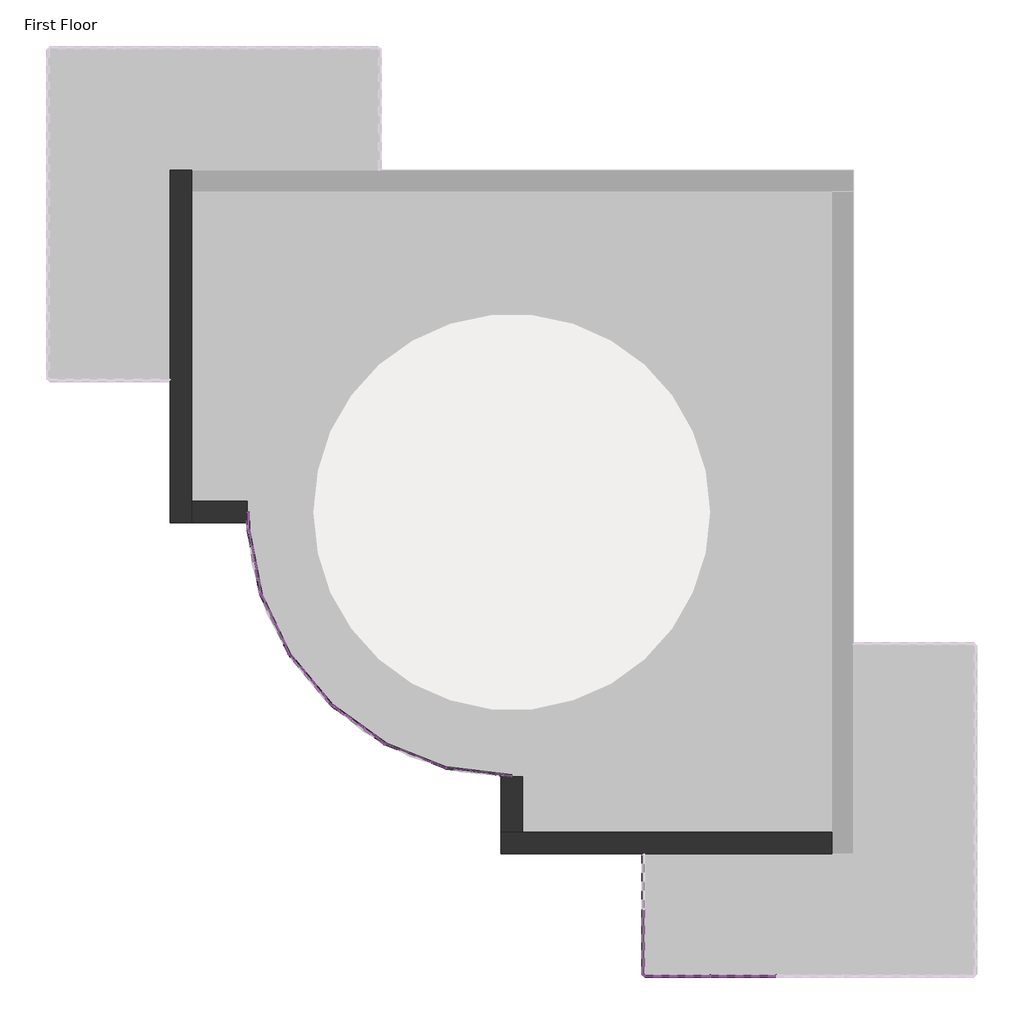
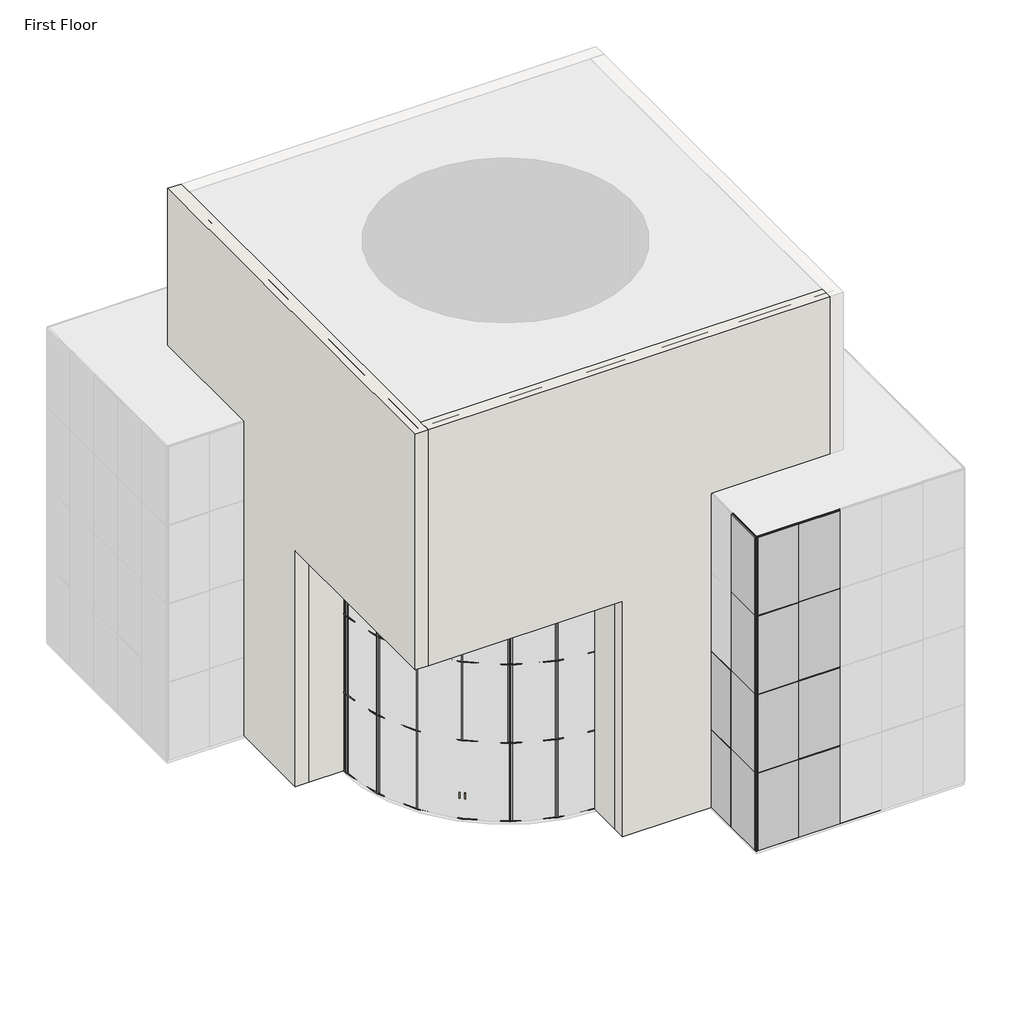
# One storey, part 1 of 4: 73 members, 33 plates, 4 walls, 2 doors.
"""IFC4 building model written with IfcOpenShell, lengths in millimetres."""

from ifc_helpers import new_model, si_unit, origin, origin_with_axes, place, context, project, spatial, polyline, outline, extrude, faceted_brep, transform, mapped, element, save
from components import curtain_wall_sgl_glass_curtain_wall_sgl_glass_fca7f741, curtain_wall_sgl_glass_curtain_wall_sgl_glass_da5bb70a, member_5e617a80, member_74941792, member_cbdb9076, member_7e523723, member_9fd3d903, member_6604d1e0, member_427ea564, member_dc7d8ed0, member_50c0a876, member_f831c101, member_4ce38149, member_fef64646, member_b90b2622, member_80103e86, member_985bfe06, member_dfe62b7a, member_7f371842, system_panel_glazed_9b7d687a, system_panel_glazed_9a901b4a, system_panel_glazed_2d5e1d3d, system_panel_glazed_37964ea6, system_panel_glazed_a669fc9f, system_panel_glazed_51c864c8, system_panel_glazed_64ac1428, system_panel_glazed_4997d7a8, system_panel_glazed_95735f45, system_panel_glazed_2762a518, system_panel_glazed_280dc3c4, system_panel_glazed_176abec3, system_panel_glazed_46fdc408

model = new_model("IFC4")

# Units and contexts
model_context = context("Model", 3, world=origin())
ifc_project = project(units=[si_unit("LENGTHUNIT", "METRE", prefix="MILLI")], contexts=[model_context])

# Site, building, storey
site = spatial("IfcSite", under=ifc_project)
building = spatial("IfcBuilding", under=site)
storey = spatial("IfcBuildingStorey", under=building, Name="First Floor", Elevation=0.0)

# Doors
placement = place(None, origin())
curtain_wall_sgl_glass_curtain_wall_sgl_glass_shape = curtain_wall_sgl_glass_curtain_wall_sgl_glass_fca7f741(model_context)
element("IfcDoor", 1, ObjectType="Curtain Wall Sgl Glass : Curtain Wall Sgl Glass", at=placement, inside=storey, context=model_context, shape_type="MappedRepresentation", body=[
    mapped(curtain_wall_sgl_glass_curtain_wall_sgl_glass_shape, transform((-6023.0622127, -5581.3120786, 25.4), x_axis=(0.8100029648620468, -0.5864257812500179, 0.0), y_axis=(0.5864257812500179, 0.8100029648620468, 0.0), z_axis=(0.0, 0.0, 1.0))),
])
curtain_wall_sgl_glass_curtain_wall_sgl_glass_2_shape = curtain_wall_sgl_glass_curtain_wall_sgl_glass_da5bb70a(model_context)
element("IfcDoor", 2, ObjectType="Curtain Wall Sgl Glass : Curtain Wall Sgl Glass", at=placement, inside=storey, context=model_context, shape_type="MappedRepresentation", body=[
    mapped(curtain_wall_sgl_glass_curtain_wall_sgl_glass_2_shape, transform((-7118.1779734, -4557.0751782, 25.4), x_axis=(-0.6392337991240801, 0.7690124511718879, 0.0), y_axis=(-0.7690124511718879, -0.6392337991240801, 0.0), z_axis=(0.0, 0.0, 1.0))),
])

# Members
member_shape = member_5e617a80(model_context)
element("IfcMember", 3, ObjectType="Rectangular Mullion : 1\" Square", at=placement, inside=storey, context=model_context, shape_type="MappedRepresentation", body=[
    mapped(member_shape, transform((2088.1943843, -11353.9860776, 3048.0), x_axis=(0.0, 0.0, 1.0), y_axis=(0.0, -1.0, 0.0), z_axis=(1.0, 0.0, 0.0))),
])
element("IfcMember", 4, ObjectType="Rectangular Mullion : 1\" Square", at=placement, inside=storey, context=model_context, shape_type="MappedRepresentation", body=[
    mapped(member_shape, transform((2088.1943843, -11353.9860776, 6096.0), x_axis=(0.0, 0.0, 1.0), y_axis=(0.0, -1.0, 0.0), z_axis=(1.0, 0.0, 0.0))),
])
element("IfcMember", 5, ObjectType="Rectangular Mullion : 1\" Square", at=placement, inside=storey, context=model_context, shape_type="MappedRepresentation", body=[
    mapped(member_shape, transform((2088.1943843, -11353.9860776, 9144.0), x_axis=(0.0, 0.0, 1.0), y_axis=(0.0, -1.0, 0.0), z_axis=(1.0, 0.0, 0.0))),
])
member_2_shape = member_74941792(model_context)
element("IfcMember", 6, ObjectType="Rectangular Mullion : 1\" Square", at=placement, inside=storey, context=model_context, shape_type="MappedRepresentation", body=[
    mapped(member_2_shape, transform((2088.1943843, -11353.9860776, 12192.0), x_axis=(0.0, 0.0, 1.0), y_axis=(0.0, -1.0, 0.0), z_axis=(1.0, 0.0, 0.0))),
])
member_3_shape = member_cbdb9076(model_context)
element("IfcMember", 7, ObjectType="Rectangular Mullion : 1\" Square", at=placement, inside=storey, context=model_context, shape_type="MappedRepresentation", body=[
    mapped(member_3_shape, transform((576.8943843, -11350.8110776, 3048.0), x_axis=(0.0, -1.0, 0.0), y_axis=(-1.0, 0.0, 0.0), z_axis=(0.0, 0.0, -1.0))),
])
element("IfcMember", 8, ObjectType="Rectangular Mullion : 1\" Square", at=placement, inside=storey, context=model_context, shape_type="MappedRepresentation", body=[
    mapped(member_3_shape, transform((576.8943843, -11350.8110776, 6096.0), x_axis=(0.0, -1.0, 0.0), y_axis=(-1.0, 0.0, 0.0), z_axis=(0.0, 0.0, -1.0))),
])
element("IfcMember", 9, ObjectType="Rectangular Mullion : 1\" Square", at=placement, inside=storey, context=model_context, shape_type="MappedRepresentation", body=[
    mapped(member_3_shape, transform((2100.8943843, -11353.9860776, 3048.0), x_axis=(1.0, 0.0, 0.0), y_axis=(0.0, -1.0, 0.0), z_axis=(0.0, 0.0, -1.0))),
])
element("IfcMember", 10, ObjectType="Rectangular Mullion : 1\" Square", at=placement, inside=storey, context=model_context, shape_type="MappedRepresentation", body=[
    mapped(member_3_shape, transform((2100.8943843, -11353.9860776, 6096.0), x_axis=(1.0, 0.0, 0.0), y_axis=(0.0, -1.0, 0.0), z_axis=(0.0, 0.0, -1.0))),
])
element("IfcMember", 11, ObjectType="Rectangular Mullion : 1\" Square", at=placement, inside=storey, context=model_context, shape_type="MappedRepresentation", body=[
    mapped(member_3_shape, transform((3624.8943843, -11353.9860776, 3048.0), x_axis=(1.0, 0.0, 0.0), y_axis=(0.0, -1.0, 0.0), z_axis=(0.0, 0.0, -1.0))),
])
element("IfcMember", 12, ObjectType="Rectangular Mullion : 1\" Square", at=placement, inside=storey, context=model_context, shape_type="MappedRepresentation", body=[
    mapped(member_3_shape, transform((3624.8943843, -11353.9860776, 6096.0), x_axis=(1.0, 0.0, 0.0), y_axis=(0.0, -1.0, 0.0), z_axis=(0.0, 0.0, -1.0))),
])
element("IfcMember", 13, ObjectType="Rectangular Mullion : 1\" Square", at=placement, inside=storey, context=model_context, shape_type="MappedRepresentation", body=[
    mapped(member_3_shape, transform((-8553.4843812, -1093.2753523, 3048.0), x_axis=(-0.0668125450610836, 0.997765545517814, 0.0), y_axis=(0.9977655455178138, 0.06681254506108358, 0.0), z_axis=(0.0, 0.0, -1.0))),
])
element("IfcMember", 14, ObjectType="Rectangular Mullion : 1\" Square", at=placement, inside=storey, context=model_context, shape_type="MappedRepresentation", body=[
    mapped(member_3_shape, transform((-8262.3863448, -2589.2158368, 3048.0), x_axis=(-0.3122096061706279, 0.9500132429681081, 0.0), y_axis=(0.9500132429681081, 0.3122096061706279, 0.0), z_axis=(0.0, 0.0, -1.0))),
])
element("IfcMember", 15, ObjectType="Rectangular Mullion : 1\" Square", at=placement, inside=storey, context=model_context, shape_type="MappedRepresentation", body=[
    mapped(member_3_shape, transform((-7609.3332629, -3966.2044614, 3048.0), x_axis=(-0.5380935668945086, 0.8428851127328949, 0.0), y_axis=(0.8428851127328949, 0.5380935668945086, 0.0), z_axis=(0.0, 0.0, -1.0))),
])
element("IfcMember", 16, ObjectType="Rectangular Mullion : 1\" Square", at=placement, inside=storey, context=model_context, shape_type="MappedRepresentation", body=[
    mapped(member_3_shape, transform((-5400.6964346, -6031.8923276, 3048.0), x_axis=(-0.8769531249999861, 0.48057592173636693, 0.0), y_axis=(0.48057592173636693, 0.8769531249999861, 0.0), z_axis=(0.0, 0.0, -1.0))),
])
element("IfcMember", 17, ObjectType="Rectangular Mullion : 1\" Square", at=placement, inside=storey, context=model_context, shape_type="MappedRepresentation", body=[
    mapped(member_3_shape, transform((-3983.15249, -6591.4860776, 3048.0), x_axis=(-0.9687499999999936, 0.2480391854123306, 0.0), y_axis=(0.2480391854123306, 0.9687499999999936, 0.0), z_axis=(0.0, 0.0, -1.0))),
])
element("IfcMember", 18, ObjectType="Rectangular Mullion : 1\" Square", at=placement, inside=storey, context=model_context, shape_type="MappedRepresentation", body=[
    mapped(member_3_shape, transform((576.8943843, -11350.8110776, 9144.0), x_axis=(0.0, -1.0, 0.0), y_axis=(-1.0, 0.0, 0.0), z_axis=(0.0, 0.0, -1.0))),
])
element("IfcMember", 19, ObjectType="Rectangular Mullion : 1\" Square", at=placement, inside=storey, context=model_context, shape_type="MappedRepresentation", body=[
    mapped(member_3_shape, transform((2100.8943843, -11353.9860776, 9144.0), x_axis=(1.0, 0.0, 0.0), y_axis=(0.0, -1.0, 0.0), z_axis=(0.0, 0.0, -1.0))),
])
element("IfcMember", 20, ObjectType="Rectangular Mullion : 1\" Square", at=placement, inside=storey, context=model_context, shape_type="MappedRepresentation", body=[
    mapped(member_3_shape, transform((3624.8943843, -11353.9860776, 9144.0), x_axis=(1.0, 0.0, 0.0), y_axis=(0.0, -1.0, 0.0), z_axis=(0.0, 0.0, -1.0))),
])
element("IfcMember", 21, ObjectType="Rectangular Mullion : 1\" Square", at=placement, inside=storey, context=model_context, shape_type="MappedRepresentation", body=[
    mapped(member_3_shape, transform((576.8943843, -11350.8110776, 0.0), x_axis=(0.0, -1.0, 0.0), y_axis=(-1.0, 0.0, 0.0), z_axis=(0.0, 0.0, -1.0))),
])
element("IfcMember", 22, ObjectType="Rectangular Mullion : 1\" Square", at=placement, inside=storey, context=model_context, shape_type="MappedRepresentation", body=[
    mapped(member_3_shape, transform((2100.8943843, -11353.9860776, 0.0), x_axis=(1.0, 0.0, 0.0), y_axis=(0.0, -1.0, 0.0), z_axis=(0.0, 0.0, -1.0))),
])
element("IfcMember", 23, ObjectType="Rectangular Mullion : 1\" Square", at=placement, inside=storey, context=model_context, shape_type="MappedRepresentation", body=[
    mapped(member_3_shape, transform((3624.8943843, -11353.9860776, 0.0), x_axis=(1.0, 0.0, 0.0), y_axis=(0.0, -1.0, 0.0), z_axis=(0.0, 0.0, -1.0))),
])
element("IfcMember", 24, ObjectType="Rectangular Mullion : 1\" Square", at=placement, inside=storey, context=model_context, shape_type="MappedRepresentation", body=[
    mapped(member_3_shape, transform((-8553.4843812, -1093.2753523, 0.0), x_axis=(-0.06681254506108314, 0.9977655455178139, 0.0), y_axis=(0.9977655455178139, 0.06681254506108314, 0.0), z_axis=(0.0, 0.0, -1.0))),
])
element("IfcMember", 25, ObjectType="Rectangular Mullion : 1\" Square", at=placement, inside=storey, context=model_context, shape_type="MappedRepresentation", body=[
    mapped(member_3_shape, transform((-8262.3863448, -2589.2158368, 0.0), x_axis=(-0.3122096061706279, 0.9500132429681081, 0.0), y_axis=(0.9500132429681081, 0.3122096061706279, 0.0), z_axis=(0.0, 0.0, -1.0))),
])
element("IfcMember", 26, ObjectType="Rectangular Mullion : 1\" Square", at=placement, inside=storey, context=model_context, shape_type="MappedRepresentation", body=[
    mapped(member_3_shape, transform((-7609.3332629, -3966.2044614, 0.0), x_axis=(-0.5380935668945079, 0.8428851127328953, 0.0), y_axis=(0.8428851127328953, 0.5380935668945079, 0.0), z_axis=(0.0, 0.0, -1.0))),
])
element("IfcMember", 27, ObjectType="Rectangular Mullion : 1\" Square", at=placement, inside=storey, context=model_context, shape_type="MappedRepresentation", body=[
    mapped(member_3_shape, transform((-5400.6964346, -6031.8923276, 0.0), x_axis=(-0.8769531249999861, 0.48057592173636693, 0.0), y_axis=(0.48057592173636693, 0.8769531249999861, 0.0), z_axis=(0.0, 0.0, -1.0))),
])
element("IfcMember", 28, ObjectType="Rectangular Mullion : 1\" Square", at=placement, inside=storey, context=model_context, shape_type="MappedRepresentation", body=[
    mapped(member_3_shape, transform((-3983.15249, -6591.4860776, 0.0), x_axis=(-0.9687499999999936, 0.2480391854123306, 0.0), y_axis=(0.2480391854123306, 0.9687499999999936, 0.0), z_axis=(0.0, 0.0, -1.0))),
])
element("IfcMember", 29, ObjectType="Rectangular Mullion : 1\" Square", at=placement, inside=storey, context=model_context, shape_type="MappedRepresentation", body=[
    mapped(member_2_shape, transform((602.2943843, -11353.9860776, 0.0), x_axis=(0.0, 0.0, -1.0), y_axis=(0.0, -1.0, 0.0), z_axis=(-1.0, 0.0, 0.0))),
])
member_4_shape = member_7e523723(model_context)
element("IfcMember", 30, ObjectType="Rectangular Mullion : 1\" Square", at=placement, inside=storey, context=model_context, shape_type="MappedRepresentation", body=[
    mapped(member_4_shape, transform((576.8943843, -11353.9860776, 12192.0), x_axis=(-1.0, 0.0, 0.0), y_axis=(0.0, -1.0, 0.0), z_axis=(0.0, 0.0, 1.0))),
])
element("IfcMember", 31, ObjectType="Rectangular Mullion : 1\" Square", at=placement, inside=storey, context=model_context, shape_type="MappedRepresentation", body=[
    mapped(member_4_shape, transform((576.8943843, -11353.9860776, 3048.0), x_axis=(-1.0, 0.0, 0.0), y_axis=(0.0, -1.0, 0.0), z_axis=(0.0, 0.0, 1.0))),
])
element("IfcMember", 32, ObjectType="Rectangular Mullion : 1\" Square", at=placement, inside=storey, context=model_context, shape_type="MappedRepresentation", body=[
    mapped(member_4_shape, transform((576.8943843, -11353.9860776, 6096.0), x_axis=(-1.0, 0.0, 0.0), y_axis=(0.0, -1.0, 0.0), z_axis=(0.0, 0.0, 1.0))),
])
element("IfcMember", 33, ObjectType="Rectangular Mullion : 1\" Square", at=placement, inside=storey, context=model_context, shape_type="MappedRepresentation", body=[
    mapped(member_4_shape, transform((576.8943843, -11353.9860776, 9144.0), x_axis=(-1.0, 0.0, 0.0), y_axis=(0.0, -1.0, 0.0), z_axis=(0.0, 0.0, 1.0))),
])
member_5_shape = member_9fd3d903(model_context)
element("IfcMember", 34, ObjectType="Rectangular Mullion : 1\" Square", at=placement, inside=storey, context=model_context, shape_type="MappedRepresentation", body=[
    mapped(member_5_shape, transform((576.8943843, -11338.1110776, 3048.0), x_axis=(0.0, 0.0, 1.0), y_axis=(-1.0, 0.0, 0.0), z_axis=(0.0, -1.0, 0.0))),
])
element("IfcMember", 35, ObjectType="Rectangular Mullion : 1\" Square", at=placement, inside=storey, context=model_context, shape_type="MappedRepresentation", body=[
    mapped(member_5_shape, transform((576.8943843, -11338.1110776, 6096.0), x_axis=(0.0, 0.0, 1.0), y_axis=(-1.0, 0.0, 0.0), z_axis=(0.0, -1.0, 0.0))),
])
element("IfcMember", 36, ObjectType="Rectangular Mullion : 1\" Square", at=placement, inside=storey, context=model_context, shape_type="MappedRepresentation", body=[
    mapped(member_5_shape, transform((576.8943843, -11338.1110776, 9144.0), x_axis=(0.0, 0.0, 1.0), y_axis=(-1.0, 0.0, 0.0), z_axis=(0.0, -1.0, 0.0))),
])
element("IfcMember", 37, ObjectType="Rectangular Mullion : 1\" Square", at=placement, inside=storey, context=model_context, shape_type="MappedRepresentation", body=[
    mapped(member_5_shape, transform((3612.1943843, -11353.9860776, 3048.0), x_axis=(0.0, 0.0, 1.0), y_axis=(0.0, -1.0, 0.0), z_axis=(1.0, 0.0, 0.0))),
])
element("IfcMember", 38, ObjectType="Rectangular Mullion : 1\" Square", at=placement, inside=storey, context=model_context, shape_type="MappedRepresentation", body=[
    mapped(member_5_shape, transform((3612.1943843, -11353.9860776, 6096.0), x_axis=(0.0, 0.0, 1.0), y_axis=(0.0, -1.0, 0.0), z_axis=(1.0, 0.0, 0.0))),
])
element("IfcMember", 39, ObjectType="Rectangular Mullion : 1\" Square", at=placement, inside=storey, context=model_context, shape_type="MappedRepresentation", body=[
    mapped(member_5_shape, transform((3612.1943843, -11353.9860776, 9144.0), x_axis=(0.0, 0.0, 1.0), y_axis=(0.0, -1.0, 0.0), z_axis=(1.0, 0.0, 0.0))),
])
member_6_shape = member_6604d1e0(model_context)
element("IfcMember", 40, ObjectType="Rectangular Mullion : 1\" Square", at=placement, inside=storey, context=model_context, shape_type="MappedRepresentation", body=[
    mapped(member_6_shape, transform((576.8943843, -11338.1110776, 12192.0), x_axis=(0.0, 0.0, 1.0), y_axis=(-1.0, 0.0, 0.0), z_axis=(0.0, -1.0, 0.0))),
])
element("IfcMember", 41, ObjectType="Rectangular Mullion : 1\" Square", at=placement, inside=storey, context=model_context, shape_type="MappedRepresentation", body=[
    mapped(member_6_shape, transform((3612.1943843, -11353.9860776, 12192.0), x_axis=(0.0, 0.0, 1.0), y_axis=(0.0, -1.0, 0.0), z_axis=(1.0, 0.0, 0.0))),
])
element("IfcMember", 42, ObjectType="Rectangular Mullion : 1\" Square", at=placement, inside=storey, context=model_context, shape_type="MappedRepresentation", body=[
    mapped(member_6_shape, transform((2113.5943843, -11353.9860776, 0.0), x_axis=(0.0, 0.0, -1.0), y_axis=(0.0, -1.0, 0.0), z_axis=(-1.0, 0.0, 0.0))),
])
element("IfcMember", 43, ObjectType="Rectangular Mullion : 1\" Square", at=placement, inside=storey, context=model_context, shape_type="MappedRepresentation", body=[
    mapped(member_6_shape, transform((3637.5943843, -11353.9860776, 0.0), x_axis=(0.0, 0.0, -1.0), y_axis=(0.0, -1.0, 0.0), z_axis=(-1.0, 0.0, 0.0))),
])
element("IfcMember", 44, ObjectType="Rectangular Mullion : 1\" Square", at=placement, inside=storey, context=model_context, shape_type="MappedRepresentation", body=[
    mapped(member_4_shape, transform((576.8943843, -11353.9860776, 3048.0), x_axis=(0.0, -1.0, 0.0), y_axis=(-1.0, 0.0, 0.0), z_axis=(0.0, 0.0, -1.0))),
])
element("IfcMember", 45, ObjectType="Rectangular Mullion : 1\" Square", at=placement, inside=storey, context=model_context, shape_type="MappedRepresentation", body=[
    mapped(member_4_shape, transform((576.8943843, -11353.9860776, 6096.0), x_axis=(0.0, -1.0, 0.0), y_axis=(-1.0, 0.0, 0.0), z_axis=(0.0, 0.0, -1.0))),
])
element("IfcMember", 46, ObjectType="Rectangular Mullion : 1\" Square", at=placement, inside=storey, context=model_context, shape_type="MappedRepresentation", body=[
    mapped(member_4_shape, transform((576.8943843, -11353.9860776, 9144.0), x_axis=(0.0, -1.0, 0.0), y_axis=(-1.0, 0.0, 0.0), z_axis=(0.0, 0.0, -1.0))),
])
element("IfcMember", 47, ObjectType="Rectangular Mullion : 1\" Square", at=placement, inside=storey, context=model_context, shape_type="MappedRepresentation", body=[
    mapped(member_4_shape, transform((576.8943843, -11353.9860776, 0.0), x_axis=(0.0, -1.0, 0.0), y_axis=(-1.0, 0.0, 0.0), z_axis=(0.0, 0.0, -1.0))),
])
member_7_shape = member_427ea564(model_context)
element("IfcMember", 48, ObjectType="Rectangular Mullion : 1\" Square", at=placement, inside=storey, context=model_context, shape_type="MappedRepresentation", body=[
    mapped(member_7_shape, transform((-7614.7753719, -3954.7295562, 0.0), x_axis=(0.0, 0.0, -1.0), y_axis=(0.9035358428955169, 0.4285125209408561, 0.0), z_axis=(0.42851252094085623, -0.9035358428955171, 0.0))),
])
element("IfcMember", 49, ObjectType="Rectangular Mullion : 1\" Square", at=placement, inside=storey, context=model_context, shape_type="MappedRepresentation", body=[
    mapped(member_7_shape, transform((-3994.9653562, -6586.8227963, 0.0), x_axis=(0.0, 0.0, -1.0), y_axis=(0.36718750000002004, 0.9301469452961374, 0.0), z_axis=(0.9301469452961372, -0.36718750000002, 0.0))),
])
element("IfcMember", 50, ObjectType="Rectangular Mullion : 1\" Square", at=placement, inside=storey, context=model_context, shape_type="MappedRepresentation", body=[
    mapped(member_7_shape, transform((-8264.8121618, -2576.7496661, 0.0), x_axis=(0.0, 0.0, -1.0), y_axis=(0.9815882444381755, 0.1910092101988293, 0.0), z_axis=(0.1910092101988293, -0.9815882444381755, 0.0))),
])
member_8_shape = member_dc7d8ed0(model_context)
element("IfcMember", 51, ObjectType="Rectangular Mullion : 1\" Square", at=placement, inside=storey, context=model_context, shape_type="MappedRepresentation", body=[
    mapped(member_8_shape, transform((-6635.1409531, -5138.1794369, 0.0), x_axis=(0.0, 0.0, -1.0), y_axis=(0.7690124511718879, 0.6392337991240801, 0.0), z_axis=(0.6392337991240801, -0.7690124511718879, 0.0))),
])
member_9_shape = member_50c0a876(model_context)
element("IfcMember", 52, ObjectType="Rectangular Mullion : 1\" Square", at=placement, inside=storey, context=model_context, shape_type="MappedRepresentation", body=[
    mapped(member_9_shape, transform((-5410.9834723, -6024.4447202, 0.0), x_axis=(0.0, 0.0, -1.0), y_axis=(0.5864257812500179, 0.8100029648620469, 0.0), z_axis=(0.8100029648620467, -0.5864257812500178, 0.0))),
])
member_10_shape = member_f831c101(model_context)
element("IfcMember", 53, ObjectType="Rectangular Mullion : 1\" Square", at=placement, inside=storey, context=model_context, shape_type="MappedRepresentation", body=[
    mapped(member_10_shape, transform((-2471.1056157, -6781.9860776, 0.0), x_axis=(0.0, 0.0, -1.0), y_axis=(0.12500000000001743, 0.9921567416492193, 0.0), z_axis=(0.9921567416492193, -0.12500000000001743, 0.0))),
])
member_11_shape = member_4ce38149(model_context)
element("IfcMember", 54, ObjectType="Rectangular Mullion : 1\" Square", at=placement, inside=storey, context=model_context, shape_type="MappedRepresentation", body=[
    mapped(member_11_shape, transform((-8553.908878, -1080.5824486, 0.0), x_axis=(0.0, 0.0, -1.0), y_axis=(0.9994412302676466, 0.033424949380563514, 0.0), z_axis=(0.03342494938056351, -0.9994412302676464, 0.0))),
])
member_12_shape = member_fef64646(model_context)
element("IfcMember", 55, ObjectType="Rectangular Mullion : 1\" Square", at=placement, inside=storey, context=model_context, shape_type="MappedRepresentation", body=[
    mapped(member_12_shape, transform((-3970.5520994, -6593.0735776, 3048.0), x_axis=(0.0, 0.0, 1.0), y_axis=(0.12500000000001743, 0.9921567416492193, 0.0), z_axis=(-0.9921567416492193, 0.12500000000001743, 0.0))),
])
element("IfcMember", 56, ObjectType="Rectangular Mullion : 1\" Square", at=placement, inside=storey, context=model_context, shape_type="MappedRepresentation", body=[
    mapped(member_12_shape, transform((-3970.5520994, -6593.0735776, 6096.0), x_axis=(0.0, 0.0, 1.0), y_axis=(0.12500000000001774, 0.9921567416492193, 0.0), z_axis=(-0.9921567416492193, 0.12500000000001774, 0.0))),
])
member_13_shape = member_b90b2622(model_context)
element("IfcMember", 57, ObjectType="Rectangular Mullion : 1\" Square", at=placement, inside=storey, context=model_context, shape_type="MappedRepresentation", body=[
    mapped(member_13_shape, transform((-5388.8835684, -6036.5556088, 3048.0), x_axis=(0.0, 0.0, 1.0), y_axis=(0.36718750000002, 0.9301469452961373, 0.0), z_axis=(-0.9301469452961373, 0.36718750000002, 0.0))),
])
element("IfcMember", 58, ObjectType="Rectangular Mullion : 1\" Square", at=placement, inside=storey, context=model_context, shape_type="MappedRepresentation", body=[
    mapped(member_13_shape, transform((-8256.9442358, -2600.690742, 3048.0), x_axis=(0.0, 0.0, 1.0), y_axis=(0.9035358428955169, 0.42851252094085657, 0.0), z_axis=(-0.42851252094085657, 0.9035358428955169, 0.0))),
])
element("IfcMember", 59, ObjectType="Rectangular Mullion : 1\" Square", at=placement, inside=storey, context=model_context, shape_type="MappedRepresentation", body=[
    mapped(member_13_shape, transform((-8551.0585642, -1105.741523, 3048.0), x_axis=(0.0, 0.0, 1.0), y_axis=(0.9815882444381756, 0.19100921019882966, 0.0), z_axis=(-0.1910092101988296, 0.9815882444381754, 0.0))),
])
element("IfcMember", 60, ObjectType="Rectangular Mullion : 1\" Square", at=placement, inside=storey, context=model_context, shape_type="MappedRepresentation", body=[
    mapped(member_13_shape, transform((-8256.9442358, -2600.690742, 6096.0), x_axis=(0.0, 0.0, 1.0), y_axis=(0.9035358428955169, 0.4285125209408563, 0.0), z_axis=(-0.4285125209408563, 0.9035358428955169, 0.0))),
])
element("IfcMember", 61, ObjectType="Rectangular Mullion : 1\" Square", at=placement, inside=storey, context=model_context, shape_type="MappedRepresentation", body=[
    mapped(member_13_shape, transform((-8551.0585642, -1105.741523, 6096.0), x_axis=(0.0, 0.0, 1.0), y_axis=(0.9815882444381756, 0.19100921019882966, 0.0), z_axis=(-0.1910092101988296, 0.9815882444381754, 0.0))),
])
element("IfcMember", 62, ObjectType="Rectangular Mullion : 1\" Square", at=placement, inside=storey, context=model_context, shape_type="MappedRepresentation", body=[
    mapped(member_13_shape, transform((-5388.8835684, -6036.5556088, 6096.0), x_axis=(0.0, 0.0, 1.0), y_axis=(0.36718750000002, 0.9301469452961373, 0.0), z_axis=(-0.9301469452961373, 0.36718750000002, 0.0))),
])
member_14_shape = member_80103e86(model_context)
element("IfcMember", 63, ObjectType="Rectangular Mullion : 1\" Square", at=placement, inside=storey, context=model_context, shape_type="MappedRepresentation", body=[
    mapped(member_14_shape, transform((-8567.1056157, -685.9860776, 3048.0), x_axis=(0.0, 0.0, 1.0), y_axis=(0.9994412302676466, 0.03342494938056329, 0.0), z_axis=(-0.033424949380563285, 0.9994412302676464, 0.0))),
])
element("IfcMember", 64, ObjectType="Rectangular Mullion : 1\" Square", at=placement, inside=storey, context=model_context, shape_type="MappedRepresentation", body=[
    mapped(member_14_shape, transform((-8567.1056157, -685.9860776, 6096.0), x_axis=(0.0, 0.0, 1.0), y_axis=(0.9994412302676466, 0.03342494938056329, 0.0), z_axis=(-0.033424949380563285, 0.9994412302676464, 0.0))),
])
element("IfcMember", 65, ObjectType="Rectangular Mullion : 1\" Square", at=placement, inside=storey, context=model_context, shape_type="MappedRepresentation", body=[
    mapped(member_3_shape, transform((-8553.4843812, -1093.2753523, 6096.0), x_axis=(-0.0668125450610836, 0.997765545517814, 0.0), y_axis=(0.9977655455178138, 0.06681254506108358, 0.0), z_axis=(0.0, 0.0, -1.0))),
])
element("IfcMember", 66, ObjectType="Rectangular Mullion : 1\" Square", at=placement, inside=storey, context=model_context, shape_type="MappedRepresentation", body=[
    mapped(member_3_shape, transform((-8262.3863448, -2589.2158368, 6096.0), x_axis=(-0.3122096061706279, 0.9500132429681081, 0.0), y_axis=(0.9500132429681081, 0.3122096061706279, 0.0), z_axis=(0.0, 0.0, -1.0))),
])
element("IfcMember", 67, ObjectType="Rectangular Mullion : 1\" Square", at=placement, inside=storey, context=model_context, shape_type="MappedRepresentation", body=[
    mapped(member_3_shape, transform((-7609.3332629, -3966.2044614, 6096.0), x_axis=(-0.5380935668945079, 0.8428851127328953, 0.0), y_axis=(0.8428851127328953, 0.5380935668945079, 0.0), z_axis=(0.0, 0.0, -1.0))),
])
element("IfcMember", 68, ObjectType="Rectangular Mullion : 1\" Square", at=placement, inside=storey, context=model_context, shape_type="MappedRepresentation", body=[
    mapped(member_3_shape, transform((-5400.6964346, -6031.8923276, 6096.0), x_axis=(-0.8769531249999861, 0.48057592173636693, 0.0), y_axis=(0.48057592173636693, 0.8769531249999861, 0.0), z_axis=(0.0, 0.0, -1.0))),
])
element("IfcMember", 69, ObjectType="Rectangular Mullion : 1\" Square", at=placement, inside=storey, context=model_context, shape_type="MappedRepresentation", body=[
    mapped(member_3_shape, transform((-3983.15249, -6591.4860776, 6096.0), x_axis=(-0.9687499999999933, 0.24803918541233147, 0.0), y_axis=(0.24803918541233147, 0.9687499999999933, 0.0), z_axis=(0.0, 0.0, -1.0))),
])
element("IfcMember", 70, ObjectType="Rectangular Mullion : 1\" Square", at=placement, inside=storey, context=model_context, shape_type="MappedRepresentation", body=[
    mapped(member_3_shape, transform((-6635.1409531, -5138.1794369, 6096.0), x_axis=(-0.7303466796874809, 0.6830766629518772, 0.0), y_axis=(0.6830766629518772, 0.7303466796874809, 0.0), z_axis=(0.0, 0.0, -1.0))),
])
element("IfcMember", 71, ObjectType="Rectangular Mullion : 1\" Square", at=placement, inside=storey, context=model_context, shape_type="MappedRepresentation", body=[
    mapped(member_13_shape, transform((-6624.8539154, -5145.6270444, 6096.0), x_axis=(0.0, 0.0, 1.0), y_axis=(0.586425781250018, 0.8100029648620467, 0.0), z_axis=(-0.8100029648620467, 0.586425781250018, 0.0))),
])
element("IfcMember", 72, ObjectType="Rectangular Mullion : 1\" Square", at=placement, inside=storey, context=model_context, shape_type="MappedRepresentation", body=[
    mapped(member_13_shape, transform((-7601.2149937, -3975.9709195, 6096.0), x_axis=(0.0, 0.0, 1.0), y_axis=(0.7690124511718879, 0.6392337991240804, 0.0), z_axis=(-0.6392337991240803, 0.7690124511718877, 0.0))),
])
member_15_shape = member_985bfe06(model_context)
element("IfcMember", 73, ObjectType="Rectangular Mullion : 1\" Square", at=placement, inside=storey, context=model_context, shape_type="MappedRepresentation", body=[
    mapped(member_15_shape, transform((-6635.1409531, -5138.1794369, 3035.3), x_axis=(-0.7303466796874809, 0.6830766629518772, 0.0), y_axis=(0.6830766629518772, 0.7303466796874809, 0.0), z_axis=(0.0, 0.0, -1.0))),
])
member_16_shape = member_dfe62b7a(model_context)
element("IfcMember", 74, ObjectType="Rectangular Mullion : 1\" Square", at=placement, inside=storey, context=model_context, shape_type="MappedRepresentation", body=[
    mapped(member_16_shape, transform((-6624.8539154, -5145.6270444, 3048.0), x_axis=(0.0, 0.0, 1.0), y_axis=(0.586425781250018, 0.8100029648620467, 0.0), z_axis=(-0.8100029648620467, 0.586425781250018, 0.0))),
])
member_17_shape = member_7f371842(model_context)
element("IfcMember", 75, ObjectType="Rectangular Mullion : 1\" Square", at=placement, inside=storey, context=model_context, shape_type="MappedRepresentation", body=[
    mapped(member_17_shape, transform((-7601.2149937, -3975.9709195, 3048.0), x_axis=(0.0, 0.0, 1.0), y_axis=(0.7690124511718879, 0.6392337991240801, 0.0), z_axis=(-0.6392337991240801, 0.7690124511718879, 0.0))),
])

# Plates
system_panel_glazed_shape = system_panel_glazed_9b7d687a(model_context)
element("IfcPlate", 76, ObjectType="System Panel : Glazed", at=placement, inside=storey, context=model_context, shape_type="MappedRepresentation", body=[
    mapped(system_panel_glazed_shape, transform((1345.2443843, -11353.9860776, 25.4), x_axis=(1.0, 0.0, 0.0), y_axis=(0.0, 1.0, 0.0), z_axis=(0.0, 0.0, 1.0))),
])
element("IfcPlate", 77, ObjectType="System Panel : Glazed", at=placement, inside=storey, context=model_context, shape_type="MappedRepresentation", body=[
    mapped(system_panel_glazed_shape, transform((1345.2443843, -11353.9860776, 9156.7), x_axis=(1.0, 0.0, 0.0), y_axis=(0.0, 1.0, 0.0), z_axis=(0.0, 0.0, 1.0))),
])
system_panel_glazed_2_shape = system_panel_glazed_9a901b4a(model_context)
element("IfcPlate", 78, ObjectType="System Panel : Glazed", at=placement, inside=storey, context=model_context, shape_type="MappedRepresentation", body=[
    mapped(system_panel_glazed_2_shape, transform((1345.2443843, -11353.9860776, 3060.7), x_axis=(1.0, 0.0, 0.0), y_axis=(0.0, 1.0, 0.0), z_axis=(0.0, 0.0, 1.0))),
])
element("IfcPlate", 79, ObjectType="System Panel : Glazed", at=placement, inside=storey, context=model_context, shape_type="MappedRepresentation", body=[
    mapped(system_panel_glazed_2_shape, transform((1345.2443843, -11353.9860776, 6108.7), x_axis=(1.0, 0.0, 0.0), y_axis=(0.0, 1.0, 0.0), z_axis=(0.0, 0.0, 1.0))),
])
system_panel_glazed_3_shape = system_panel_glazed_2d5e1d3d(model_context)
element("IfcPlate", 80, ObjectType="System Panel : Glazed", at=placement, inside=storey, context=model_context, shape_type="MappedRepresentation", body=[
    mapped(system_panel_glazed_3_shape, transform((2862.8943843, -11353.9860776, 25.4), x_axis=(1.0, 0.0, 0.0), y_axis=(0.0, 1.0, 0.0), z_axis=(0.0, 0.0, 1.0))),
])
element("IfcPlate", 81, ObjectType="System Panel : Glazed", at=placement, inside=storey, context=model_context, shape_type="MappedRepresentation", body=[
    mapped(system_panel_glazed_3_shape, transform((2862.8943843, -11353.9860776, 9156.7), x_axis=(1.0, 0.0, 0.0), y_axis=(0.0, 1.0, 0.0), z_axis=(0.0, 0.0, 1.0))),
])
element("IfcPlate", 82, ObjectType="System Panel : Glazed", at=placement, inside=storey, context=model_context, shape_type="MappedRepresentation", body=[
    mapped(system_panel_glazed_3_shape, transform((576.8943843, -10588.8110776, 25.4), x_axis=(0.0, -1.0, 0.0), y_axis=(1.0, 0.0, 0.0), z_axis=(0.0, 0.0, 1.0))),
])
element("IfcPlate", 83, ObjectType="System Panel : Glazed", at=placement, inside=storey, context=model_context, shape_type="MappedRepresentation", body=[
    mapped(system_panel_glazed_3_shape, transform((576.8943843, -10588.8110776, 9156.7), x_axis=(0.0, -1.0, 0.0), y_axis=(1.0, 0.0, 0.0), z_axis=(0.0, 0.0, 1.0))),
])
element("IfcPlate", 84, ObjectType="System Panel : Glazed", at=placement, inside=storey, context=model_context, shape_type="MappedRepresentation", body=[
    mapped(system_panel_glazed_3_shape, transform((-4691.9244623, -6311.6892026, 25.4), x_axis=(-0.9301469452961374, 0.3671875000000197, 0.0), y_axis=(-0.3671875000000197, -0.9301469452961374, 0.0), z_axis=(0.0, 0.0, 1.0))),
])
element("IfcPlate", 85, ObjectType="System Panel : Glazed", at=placement, inside=storey, context=model_context, shape_type="MappedRepresentation", body=[
    mapped(system_panel_glazed_3_shape, transform((-7935.8598039, -3277.7101491, 25.4), x_axis=(-0.4285125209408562, 0.9035358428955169, 0.0), y_axis=(-0.9035358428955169, -0.4285125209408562, 0.0), z_axis=(0.0, 0.0, 1.0))),
])
element("IfcPlate", 86, ObjectType="System Panel : Glazed", at=placement, inside=storey, context=model_context, shape_type="MappedRepresentation", body=[
    mapped(system_panel_glazed_3_shape, transform((-8407.935363, -1841.2455945, 25.4), x_axis=(-0.19100921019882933, 0.9815882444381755, 0.0), y_axis=(-0.9815882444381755, -0.19100921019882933, 0.0), z_axis=(0.0, 0.0, 1.0))),
])
system_panel_glazed_4_shape = system_panel_glazed_37964ea6(model_context)
element("IfcPlate", 87, ObjectType="System Panel : Glazed", at=placement, inside=storey, context=model_context, shape_type="MappedRepresentation", body=[
    mapped(system_panel_glazed_4_shape, transform((2862.8943843, -11353.9860776, 3060.7), x_axis=(1.0, 0.0, 0.0), y_axis=(0.0, 1.0, 0.0), z_axis=(0.0, 0.0, 1.0))),
])
element("IfcPlate", 88, ObjectType="System Panel : Glazed", at=placement, inside=storey, context=model_context, shape_type="MappedRepresentation", body=[
    mapped(system_panel_glazed_4_shape, transform((2862.8943843, -11353.9860776, 6108.7), x_axis=(1.0, 0.0, 0.0), y_axis=(0.0, 1.0, 0.0), z_axis=(0.0, 0.0, 1.0))),
])
element("IfcPlate", 89, ObjectType="System Panel : Glazed", at=placement, inside=storey, context=model_context, shape_type="MappedRepresentation", body=[
    mapped(system_panel_glazed_4_shape, transform((576.8943843, -10588.8110776, 3060.7), x_axis=(0.0, -1.0, 0.0), y_axis=(1.0, 0.0, 0.0), z_axis=(0.0, 0.0, 1.0))),
])
element("IfcPlate", 90, ObjectType="System Panel : Glazed", at=placement, inside=storey, context=model_context, shape_type="MappedRepresentation", body=[
    mapped(system_panel_glazed_4_shape, transform((576.8943843, -10588.8110776, 6108.7), x_axis=(0.0, -1.0, 0.0), y_axis=(1.0, 0.0, 0.0), z_axis=(0.0, 0.0, 1.0))),
])
element("IfcPlate", 91, ObjectType="System Panel : Glazed", at=placement, inside=storey, context=model_context, shape_type="MappedRepresentation", body=[
    mapped(system_panel_glazed_4_shape, transform((-4691.9244623, -6311.6892026, 3060.7), x_axis=(-0.9301469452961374, 0.3671875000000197, 0.0), y_axis=(-0.3671875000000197, -0.9301469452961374, 0.0), z_axis=(0.0, 0.0, 1.0))),
])
element("IfcPlate", 92, ObjectType="System Panel : Glazed", at=placement, inside=storey, context=model_context, shape_type="MappedRepresentation", body=[
    mapped(system_panel_glazed_4_shape, transform((-6017.9186938, -5585.0358823, 3060.7), x_axis=(-0.8100029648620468, 0.5864257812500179, 0.0), y_axis=(-0.5864257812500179, -0.8100029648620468, 0.0), z_axis=(0.0, 0.0, 1.0))),
])
element("IfcPlate", 93, ObjectType="System Panel : Glazed", at=placement, inside=storey, context=model_context, shape_type="MappedRepresentation", body=[
    mapped(system_panel_glazed_4_shape, transform((-7122.237108, -4552.1919492, 3060.7), x_axis=(-0.6392337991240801, 0.7690124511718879, 0.0), y_axis=(-0.7690124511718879, -0.6392337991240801, 0.0), z_axis=(0.0, 0.0, 1.0))),
])
element("IfcPlate", 94, ObjectType="System Panel : Glazed", at=placement, inside=storey, context=model_context, shape_type="MappedRepresentation", body=[
    mapped(system_panel_glazed_4_shape, transform((-7935.8598039, -3277.7101491, 3060.7), x_axis=(-0.4285125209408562, 0.9035358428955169, 0.0), y_axis=(-0.9035358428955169, -0.4285125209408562, 0.0), z_axis=(0.0, 0.0, 1.0))),
])
element("IfcPlate", 95, ObjectType="System Panel : Glazed", at=placement, inside=storey, context=model_context, shape_type="MappedRepresentation", body=[
    mapped(system_panel_glazed_4_shape, transform((-8407.935363, -1841.2455945, 3060.7), x_axis=(-0.19100921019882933, 0.9815882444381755, 0.0), y_axis=(-0.9815882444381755, -0.19100921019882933, 0.0), z_axis=(0.0, 0.0, 1.0))),
])
system_panel_glazed_5_shape = system_panel_glazed_a669fc9f(model_context)
element("IfcPlate", 96, ObjectType="System Panel : Glazed", at=placement, inside=storey, context=model_context, shape_type="MappedRepresentation", body=[
    mapped(system_panel_glazed_5_shape, transform((576.8943843, -9194.9860776, 25.4), x_axis=(0.0, -1.0, 0.0), y_axis=(1.0, 0.0, 0.0), z_axis=(0.0, 0.0, 1.0))),
])
system_panel_glazed_6_shape = system_panel_glazed_51c864c8(model_context)
element("IfcPlate", 97, ObjectType="System Panel : Glazed", at=placement, inside=storey, context=model_context, shape_type="MappedRepresentation", body=[
    mapped(system_panel_glazed_6_shape, transform((576.8943843, -9194.9860776, 3060.7), x_axis=(0.0, -1.0, 0.0), y_axis=(1.0, 0.0, 0.0), z_axis=(0.0, 0.0, 1.0))),
])
system_panel_glazed_7_shape = system_panel_glazed_64ac1428(model_context)
element("IfcPlate", 98, ObjectType="System Panel : Glazed", at=placement, inside=storey, context=model_context, shape_type="MappedRepresentation", body=[
    mapped(system_panel_glazed_7_shape, transform((-3220.8288575, -6687.5298276, 25.4), x_axis=(-0.9921567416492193, 0.1250000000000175, 0.0), y_axis=(-0.1250000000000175, -0.9921567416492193, 0.0), z_axis=(0.0, 0.0, 1.0))),
])
system_panel_glazed_8_shape = system_panel_glazed_4997d7a8(model_context)
element("IfcPlate", 99, ObjectType="System Panel : Glazed", at=placement, inside=storey, context=model_context, shape_type="MappedRepresentation", body=[
    mapped(system_panel_glazed_8_shape, transform((-8560.5072469, -883.2842631, 25.4), x_axis=(-0.03342494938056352, 0.9994412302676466, 0.0), y_axis=(-0.9994412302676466, -0.03342494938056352, 0.0), z_axis=(0.0, 0.0, 1.0))),
])
system_panel_glazed_9_shape = system_panel_glazed_95735f45(model_context)
element("IfcPlate", 100, ObjectType="System Panel : Glazed", at=placement, inside=storey, context=model_context, shape_type="MappedRepresentation", body=[
    mapped(system_panel_glazed_9_shape, transform((-3220.8288575, -6687.5298276, 6108.7), x_axis=(-0.9921567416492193, 0.1250000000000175, 0.0), y_axis=(-0.1250000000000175, -0.9921567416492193, 0.0), z_axis=(0.0, 0.0, 1.0))),
])
system_panel_glazed_10_shape = system_panel_glazed_2762a518(model_context)
element("IfcPlate", 101, ObjectType="System Panel : Glazed", at=placement, inside=storey, context=model_context, shape_type="MappedRepresentation", body=[
    mapped(system_panel_glazed_10_shape, transform((-4691.9244623, -6311.6892026, 6108.7), x_axis=(-0.9301469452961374, 0.3671875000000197, 0.0), y_axis=(-0.3671875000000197, -0.9301469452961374, 0.0), z_axis=(0.0, 0.0, 1.0))),
])
element("IfcPlate", 102, ObjectType="System Panel : Glazed", at=placement, inside=storey, context=model_context, shape_type="MappedRepresentation", body=[
    mapped(system_panel_glazed_10_shape, transform((-6017.9186938, -5585.0358823, 6108.7), x_axis=(-0.8100029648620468, 0.5864257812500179, 0.0), y_axis=(-0.5864257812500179, -0.8100029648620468, 0.0), z_axis=(0.0, 0.0, 1.0))),
])
element("IfcPlate", 103, ObjectType="System Panel : Glazed", at=placement, inside=storey, context=model_context, shape_type="MappedRepresentation", body=[
    mapped(system_panel_glazed_10_shape, transform((-7122.237108, -4552.1919492, 6108.7), x_axis=(-0.6392337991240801, 0.7690124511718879, 0.0), y_axis=(-0.7690124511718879, -0.6392337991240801, 0.0), z_axis=(0.0, 0.0, 1.0))),
])
element("IfcPlate", 104, ObjectType="System Panel : Glazed", at=placement, inside=storey, context=model_context, shape_type="MappedRepresentation", body=[
    mapped(system_panel_glazed_10_shape, transform((-7935.8598039, -3277.7101491, 6108.7), x_axis=(-0.4285125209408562, 0.9035358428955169, 0.0), y_axis=(-0.9035358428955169, -0.4285125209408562, 0.0), z_axis=(0.0, 0.0, 1.0))),
])
element("IfcPlate", 105, ObjectType="System Panel : Glazed", at=placement, inside=storey, context=model_context, shape_type="MappedRepresentation", body=[
    mapped(system_panel_glazed_10_shape, transform((-8407.935363, -1841.2455945, 6108.7), x_axis=(-0.19100921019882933, 0.9815882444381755, 0.0), y_axis=(-0.9815882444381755, -0.19100921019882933, 0.0), z_axis=(0.0, 0.0, 1.0))),
])
system_panel_glazed_11_shape = system_panel_glazed_280dc3c4(model_context)
element("IfcPlate", 106, ObjectType="System Panel : Glazed", at=placement, inside=storey, context=model_context, shape_type="MappedRepresentation", body=[
    mapped(system_panel_glazed_11_shape, transform((-8560.5072469, -883.2842631, 6108.7), x_axis=(-0.03342494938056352, 0.9994412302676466, 0.0), y_axis=(-0.9994412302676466, -0.03342494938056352, 0.0), z_axis=(0.0, 0.0, 1.0))),
])
system_panel_glazed_12_shape = system_panel_glazed_176abec3(model_context)
element("IfcPlate", 107, ObjectType="System Panel : Glazed", at=placement, inside=storey, context=model_context, shape_type="MappedRepresentation", body=[
    mapped(system_panel_glazed_12_shape, transform((-3220.8288575, -6687.5298276, 3060.7), x_axis=(-0.9921567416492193, 0.1250000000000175, 0.0), y_axis=(-0.1250000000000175, -0.9921567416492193, 0.0), z_axis=(0.0, 0.0, 1.0))),
])
system_panel_glazed_13_shape = system_panel_glazed_46fdc408(model_context)
element("IfcPlate", 108, ObjectType="System Panel : Glazed", at=placement, inside=storey, context=model_context, shape_type="MappedRepresentation", body=[
    mapped(system_panel_glazed_13_shape, transform((-8560.5072469, -883.2842631, 3060.7), x_axis=(-0.03342494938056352, 0.9994412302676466, 0.0), y_axis=(-0.9994412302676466, -0.03342494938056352, 0.0), z_axis=(0.0, 0.0, 1.0))),
])

# Walls
element("IfcWall", 109, ObjectType="Exterior - Brick on CMU", at=placement, inside=storey, context=model_context, shape_type="Brep", body=[
    faceted_brep([(-10335.5806157, 7178.4889224, 18288.0), (-10335.5806157, 7178.4889224, 0.0), (-10335.5806157, -930.4610776, 0.0), (-10335.5806157, -930.4610776, 9144.0), (-10335.5806157, -8550.4610776, 9144.0), (-10335.5806157, -8550.4610776, 18288.0), (-9840.2806157, 7178.4889224, 18288.0), (-9840.2806157, 6683.1889224, 18288.0), (-9840.2806157, -8055.1610776, 18288.0), (-9840.2806157, -8550.4610776, 18288.0), (-9840.2806157, -8550.4610776, 9144.0), (-9840.2806157, -8055.1610776, 9144.0), (-9840.2806157, -930.4610776, 9144.0), (-9840.2806157, -930.4610776, 0.0), (-9840.2806157, -435.1610776, 0.0), (-9840.2806157, 6683.1889224, 0.0), (-9840.2806157, 7178.4889224, 0.0)], [[[0, 1, 2, 3, 4, 5]], [[6, 7, 8, 9, 10, 11, 12, 13, 14, 15, 16]], [[2, 1, 16, 15, 14, 13]], [[4, 3, 12, 11, 10]], [[0, 5, 9, 8, 7, 6]], [[1, 0, 6, 16]], [[5, 4, 10, 9]], [[3, 2, 13, 12]]]),
])
element("IfcWall", 110, ObjectType="Exterior - Brick on CMU", at=placement, inside=storey, context=model_context, shape_type="Brep", body=[
    faceted_brep([(-9840.2806157, -8550.4610776, 18288.0), (-9840.2806157, -8550.4610776, 9144.0), (-2715.5806157, -8550.4610776, 9144.0), (-2715.5806157, -8550.4610776, 0.0), (4898.0693843, -8550.4610776, 0.0), (4898.0693843, -8550.4610776, 18288.0), (-9840.2806157, -8055.1610776, 18288.0), (4898.0693843, -8055.1610776, 18288.0), (4898.0693843, -8055.1610776, 0.0), (-2220.2806157, -8055.1610776, 0.0), (-2715.5806157, -8055.1610776, 0.0), (-2715.5806157, -8055.1610776, 9144.0), (-9840.2806157, -8055.1610776, 9144.0)], [[[0, 1, 2, 3, 4, 5]], [[6, 7, 8, 9, 10, 11, 12]], [[2, 1, 12, 11]], [[4, 3, 10, 9, 8]], [[0, 5, 7, 6]], [[1, 0, 6, 12]], [[5, 4, 8, 7]], [[3, 2, 11, 10]]]),
])
element("IfcWall", 111, ObjectType="Exterior - Brick on CMU", at=placement, inside=storey, context=model_context, shape_type="SweptSolid", body=[
    extrude(outline(polyline([(-9840.2806157, -435.1610776), (-8567.1056157, -435.1610776), (-8567.1056157, -930.4610776), (-9840.2806157, -930.4610776), (-9840.2806157, -435.1610776)])), origin_with_axes(), (0.0, 0.0, 1.0), 9144.0),
])
element("IfcWall", 112, ObjectType="Exterior - Brick on CMU", at=placement, inside=storey, context=model_context, shape_type="SweptSolid", body=[
    extrude(outline(polyline([(-2220.2806157, -6781.9860776), (-2220.2806157, -8055.1610776), (-2715.5806157, -8055.1610776), (-2715.5806157, -6781.9860776), (-2220.2806157, -6781.9860776)])), origin_with_axes(), (0.0, 0.0, 1.0), 9144.0),
])

save(model, "model.ifc")
